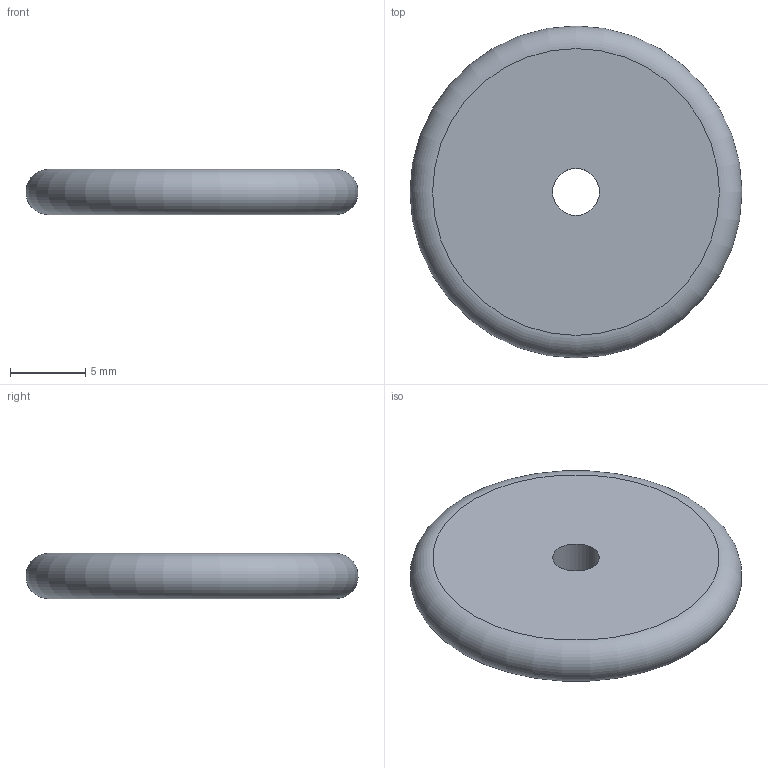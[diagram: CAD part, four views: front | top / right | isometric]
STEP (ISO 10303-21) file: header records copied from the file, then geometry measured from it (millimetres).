
FILE_DESCRIPTION(/* description */ (''),/* implementation_level */ '2;1');
FILE_NAME(/* name */ 'd22',/* time_stamp */ '2023-12-29T13:28:56+08:00',/* author */ (''),/* organization */ (''),/* preprocessor_version */ 'ST-DEVELOPER v9',/* originating_system */ 'UGS - NX 4.0',/* authorisation */ '');
FILE_SCHEMA (('AUTOMOTIVE_DESIGN { 1 0 10303 214 1 1 1 1 }'));
Length unit declared in the file: millimetre
Products named in the file (1): Admi826Eextx
Bounding box: 21.99 x 21.99 x 3 mm (x, y, z)
Volume: 903.7 mm3; surface area: 1525.2 mm2
Topology: 1 solids, 2 shells, 11 faces, 20 edges, 14 vertices
Faces by surface type: plane 5, cylinder 4, torus 1, cone 1
Full cylindrical faces by diameter (mm): 3.1 x1, 5.3 x1, 20 x1, 20.2 x1
Entity records: 254 total; most frequent: DIRECTION 46, CARTESIAN_POINT 34, AXIS2_PLACEMENT_3D 23, EDGE_LOOP 22, ORIENTED_EDGE 22, FACE_BOUND 16, ADVANCED_FACE 11, VERTEX_POINT 11
